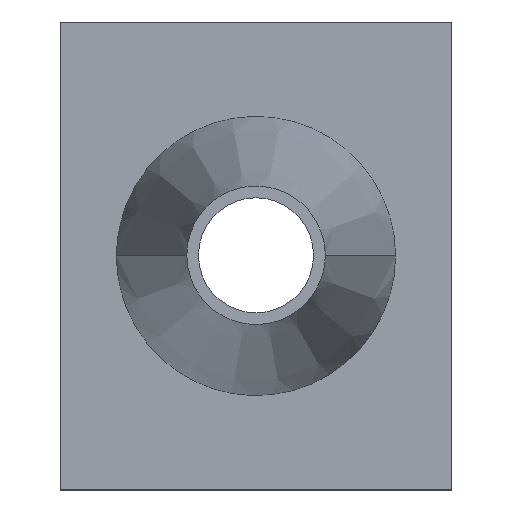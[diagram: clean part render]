
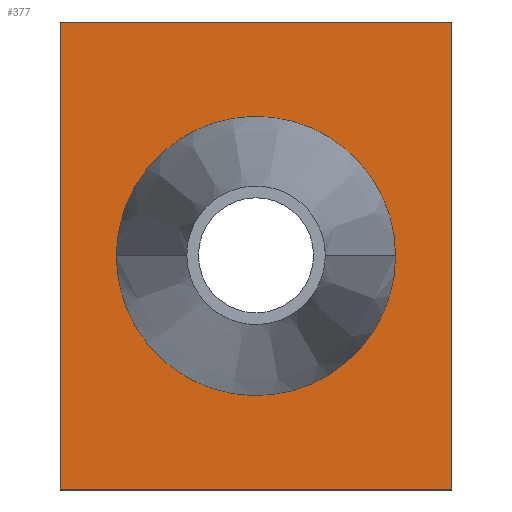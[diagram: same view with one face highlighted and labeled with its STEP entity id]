
A CAD part, top view. The second image highlights one B-rep face of the part: STEP entity #377.
In plain terms, the highlighted planar face has unit normal (0, 0, 1).
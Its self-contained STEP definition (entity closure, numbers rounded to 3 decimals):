
#167=CARTESIAN_POINT('Vertex',(0.,122.,3.)) ;
#174=CARTESIAN_POINT('Vertex',(0.,0.,3.)) ;
#177=CARTESIAN_POINT('Line Origine',(0.,61.,3.)) ;
#198=CARTESIAN_POINT('Vertex',(102.,122.,3.)) ;
#201=CARTESIAN_POINT('Line Origine',(51.,122.,3.)) ;
#222=CARTESIAN_POINT('Vertex',(102.,0.,3.)) ;
#225=CARTESIAN_POINT('Line Origine',(102.,61.,3.)) ;
#242=CARTESIAN_POINT('Line Origine',(51.,0.,3.)) ;
#324=CARTESIAN_POINT('Axis2P3D Location',(0.,0.,3.)) ;
#336=CARTESIAN_POINT('Control Point',(87.384,61.,3.)) ;
#337=CARTESIAN_POINT('Control Point',(87.384,66.925,3.)) ;
#338=CARTESIAN_POINT('Control Point',(86.178,72.851,3.)) ;
#339=CARTESIAN_POINT('Control Point',(83.764,78.449,3.)) ;
#340=CARTESIAN_POINT('Control Point',(76.8,88.339,3.)) ;
#341=CARTESIAN_POINT('Control Point',(66.525,94.718,3.)) ;
#342=CARTESIAN_POINT('Control Point',(60.796,96.805,3.)) ;
#343=CARTESIAN_POINT('Control Point',(48.823,98.528,3.)) ;
#344=CARTESIAN_POINT('Control Point',(37.13,95.432,3.)) ;
#345=CARTESIAN_POINT('Control Point',(31.68,92.697,3.)) ;
#346=CARTESIAN_POINT('Control Point',(22.885,85.707,3.)) ;
#347=CARTESIAN_POINT('Control Point',(17.279,76.04,3.)) ;
#348=CARTESIAN_POINT('Control Point',(15.503,71.164,3.)) ;
#349=CARTESIAN_POINT('Control Point',(14.616,66.082,3.)) ;
#350=CARTESIAN_POINT('Control Point',(14.616,61.,3.)) ;
#351=CARTESIAN_POINT('Vertex',(87.384,61.,3.)) ;
#353=CARTESIAN_POINT('Vertex',(14.616,61.,3.)) ;
#357=CARTESIAN_POINT('Control Point',(87.384,61.,3.)) ;
#358=CARTESIAN_POINT('Control Point',(87.384,55.075,3.)) ;
#359=CARTESIAN_POINT('Control Point',(86.178,49.149,3.)) ;
#360=CARTESIAN_POINT('Control Point',(83.764,43.551,3.)) ;
#361=CARTESIAN_POINT('Control Point',(76.8,33.661,3.)) ;
#362=CARTESIAN_POINT('Control Point',(66.525,27.282,3.)) ;
#363=CARTESIAN_POINT('Control Point',(60.796,25.195,3.)) ;
#364=CARTESIAN_POINT('Control Point',(48.823,23.472,3.)) ;
#365=CARTESIAN_POINT('Control Point',(37.13,26.568,3.)) ;
#366=CARTESIAN_POINT('Control Point',(31.68,29.303,3.)) ;
#367=CARTESIAN_POINT('Control Point',(22.885,36.293,3.)) ;
#368=CARTESIAN_POINT('Control Point',(17.279,45.96,3.)) ;
#369=CARTESIAN_POINT('Control Point',(15.503,50.836,3.)) ;
#370=CARTESIAN_POINT('Control Point',(14.616,55.918,3.)) ;
#371=CARTESIAN_POINT('Control Point',(14.616,61.,3.)) ;
#178=DIRECTION('Vector Direction',(0.,1.,0.)) ;
#202=DIRECTION('Vector Direction',(-1.,0.,0.)) ;
#226=DIRECTION('Vector Direction',(0.,1.,0.)) ;
#243=DIRECTION('Vector Direction',(1.,0.,0.)) ;
#325=DIRECTION('Axis2P3D Direction',(0.,0.,1.)) ;
#326=DIRECTION('Axis2P3D XDirection',(1.,0.,0.)) ;
#327=AXIS2_PLACEMENT_3D('Plane Axis2P3D',#324,#325,#326) ;
#330=ORIENTED_EDGE('',*,*,#181,.F.) ;
#331=ORIENTED_EDGE('',*,*,#246,.T.) ;
#332=ORIENTED_EDGE('',*,*,#229,.T.) ;
#333=ORIENTED_EDGE('',*,*,#205,.T.) ;
#374=ORIENTED_EDGE('',*,*,#355,.F.) ;
#375=ORIENTED_EDGE('',*,*,#372,.T.) ;
#376=FACE_BOUND('',#373,.T.) ;
#179=VECTOR('Line Direction',#178,1.) ;
#203=VECTOR('Line Direction',#202,1.) ;
#227=VECTOR('Line Direction',#226,1.) ;
#244=VECTOR('Line Direction',#243,1.) ;
#377=ADVANCED_FACE('PartBody',(#334,#376),#328,.T.) ;
#335=B_SPLINE_CURVE_WITH_KNOTS('',5,(#336,#337,#338,#339,#340,#341,#342,#343,#344,#345,#346,#347,#348,#349,#350),.UNSPECIFIED.,.F.,.U.,(6,3,3,3,6),(0.,32.046,64.097,96.148,123.634),.UNSPECIFIED.) ;
#356=B_SPLINE_CURVE_WITH_KNOTS('',5,(#357,#358,#359,#360,#361,#362,#363,#364,#365,#366,#367,#368,#369,#370,#371),.UNSPECIFIED.,.F.,.U.,(6,3,3,3,6),(0.,32.046,64.097,96.148,123.634),.UNSPECIFIED.) ;
#181=EDGE_CURVE('',#175,#168,#180,.T.) ;
#205=EDGE_CURVE('',#199,#168,#204,.T.) ;
#229=EDGE_CURVE('',#223,#199,#228,.T.) ;
#246=EDGE_CURVE('',#175,#223,#245,.T.) ;
#355=EDGE_CURVE('',#352,#354,#335,.T.) ;
#372=EDGE_CURVE('',#352,#354,#356,.T.) ;
#329=EDGE_LOOP('',(#330,#331,#332,#333)) ;
#373=EDGE_LOOP('',(#374,#375)) ;
#334=FACE_OUTER_BOUND('',#329,.T.) ;
#180=LINE('Line',#177,#179) ;
#204=LINE('Line',#201,#203) ;
#228=LINE('Line',#225,#227) ;
#245=LINE('Line',#242,#244) ;
#328=PLANE('',#327) ;
#168=VERTEX_POINT('',#167) ;
#175=VERTEX_POINT('',#174) ;
#199=VERTEX_POINT('',#198) ;
#223=VERTEX_POINT('',#222) ;
#352=VERTEX_POINT('',#351) ;
#354=VERTEX_POINT('',#353) ;
